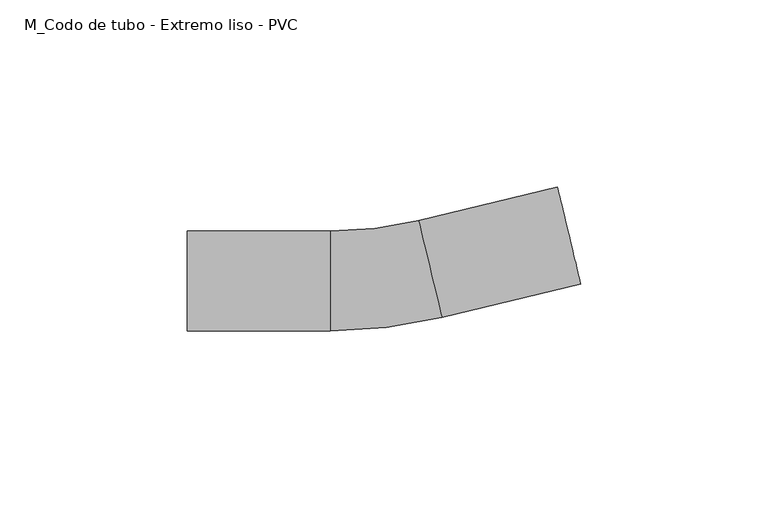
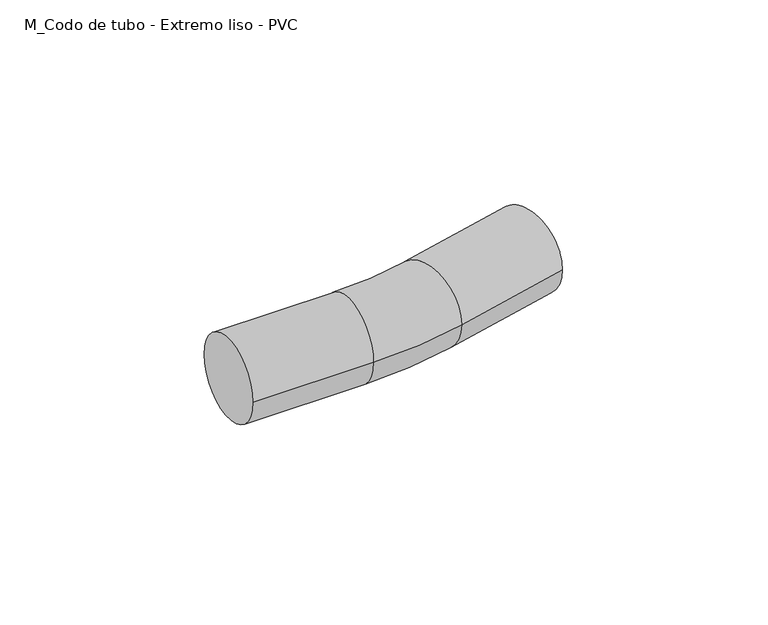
"""IFC4 building model written with IfcOpenShell, lengths in millimetres: cable carrier fitting geometry, M_Codo de tubo - Extremo liso - PVC : CODO ILUMINACION."""

from ifc_helpers import new_model, si_unit, point, frame, origin, place, context, project, spatial, circle_curve, ellipse_curve, trimmed, source, transform, mapped, element, save
from ifc_brep_helpers import plane_surface, cylinder_surface, revolved_surface, advanced_brep


def m_codo_de_tubo_extremo_liso_pvc_7aa797cd(model_context):
    return source(origin(), model_context, "Body", "AdvancedBrep", [
        advanced_brep(
        [(-51.6648743, -13.335, 0.0), (-51.6648743, 13.335, 0.0), (-13.5648743, -13.335, 0.0), (-13.5648743, 13.335, 0.0), (10.0668971, 16.139567, 0.0), (16.3092517, -9.789604, 0.0), (53.3509246, -0.8719544, 0.0), (47.1085699, 25.0572165, 0.0)],
        [
            (0, 1, circle_curve(frame((-51.6648743, 0.0, 0.0), z_axis=(-1.0, 0.0, 0.0), x_axis=(0.0, 1.0, 0.0)), 13.335)),
            (1, 0, circle_curve(frame((-51.6648743, 0.0, 0.0), z_axis=(-1.0, 0.0, 0.0), x_axis=(0.0, 1.0, 0.0)), 13.335)),
            (0, 2),
            (2, 3, circle_curve(frame((-13.5648743, 0.0, 0.0), z_axis=(-1.0, 0.0, 0.0), x_axis=(0.0, 1.0, 0.0)), 13.335)),
            (3, 1),
            (3, 2, circle_curve(frame((-13.5648743, 0.0, 0.0), z_axis=(-1.0, 0.0, 0.0), x_axis=(0.0, 1.0, 0.0)), 13.335)),
            (4, 3, circle_curve(frame((-13.5648743, 114.3, 0.0), z_axis=(0.0, 0.0, -1.0), x_axis=(0.0, -1.0, 0.0)), 100.965)),
            (2, 5, circle_curve(frame((-13.5648743, 114.3, 0.0), z_axis=(0.0, 0.0, 1.0), x_axis=(0.0, -1.0, 0.0)), 127.635)),
            (5, 4, circle_curve(frame((13.1880744, 3.1749815, 0.0), z_axis=(-0.972222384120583, -0.2340590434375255, 0.0), x_axis=(-0.2340590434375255, 0.972222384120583, 0.0)), 13.335)),
            (4, 5, circle_curve(frame((13.1880744, 3.1749815, 0.0), z_axis=(-0.972222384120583, -0.2340590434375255, 0.0), x_axis=(-0.2340590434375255, 0.972222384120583, 0.0)), 13.335)),
            (6, 7, circle_curve(frame((50.2297472, 12.092631, 0.0), z_axis=(0.972222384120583, 0.23405904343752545, 0.0), x_axis=(-0.23405904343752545, 0.972222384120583, 0.0)), 13.335)),
            (7, 6, circle_curve(frame((50.2297472, 12.092631, 0.0), z_axis=(0.972222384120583, 0.23405904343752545, 0.0), x_axis=(-0.23405904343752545, 0.972222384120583, 0.0)), 13.335)),
            (5, 6),
            (7, 4),
        ],
        [
            plane_surface(frame((-51.6648743, 0.0, 0.0), z_axis=(-1.0, 0.0, 0.0), x_axis=(0.0, 0.0, 1.0))),
            cylinder_surface(frame((-51.6648743, 0.0, 0.0), z_axis=(-1.0, 0.0, 0.0), x_axis=(0.0, 1.0, 0.0)), 13.335),
            revolved_surface(trimmed(ellipse_curve(frame((-13.5648743, 0.0, 0.0), z_axis=(-1.0, 0.0, 0.0), x_axis=(0.0, 1.0, 0.0)), 13.335, 13.335), [point((-13.5648743, -13.335, 0.0))], [point((-13.5648743, 13.335, 0.0))], True, "CARTESIAN"), (-13.5648743, 114.3, 0.0), (0.0, 0.0, 1.0)),
            revolved_surface(trimmed(ellipse_curve(frame((-13.5648743, 0.0, 0.0), z_axis=(-1.0, 0.0, 0.0), x_axis=(0.0, 1.0, 0.0)), 13.335, 13.335), [point((-13.5648743, 13.335, 0.0))], [point((-13.5648743, -13.335, 0.0))], True, "CARTESIAN"), (-13.5648743, 114.3, 0.0), (0.0, 0.0, 1.0)),
            plane_surface(frame((50.2297472, 12.092631, 0.0), z_axis=(0.972222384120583, 0.23405904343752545, 0.0), x_axis=(0.0, 0.0, 1.0))),
            cylinder_surface(frame((13.1880744, 3.1749815, 0.0), z_axis=(-0.972222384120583, -0.23405904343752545, 0.0), x_axis=(-0.23405904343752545, 0.972222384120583, 0.0)), 13.335),
        ],
        [
            (0, [[1, 2]]),
            (1, [[-1, 3, 4, 5]]),
            (1, [[-2, -5, 6, -3]]),
            (2, [[7, -4, 8, 9]]),
            (3, [[-8, -6, -7, 10]]),
            (4, [[11, 12]]),
            (5, [[-9, 13, -12, 14]]),
            (5, [[-10, -14, -11, -13]]),
        ],
    ),
    ])


if __name__ == "__main__":
    model = new_model("IFC4")
    model_context = context("Model", 3, world=origin())
    ifc_project = project(units=[si_unit("LENGTHUNIT", "METRE", prefix="MILLI")], contexts=[model_context])
    site = spatial("IfcSite", under=ifc_project)
    building = spatial("IfcBuilding", under=site)
    placement = place(None, origin())
    m_codo_de_tubo_extremo_liso_pvc_shape = m_codo_de_tubo_extremo_liso_pvc_7aa797cd(model_context)
    element("IfcCableCarrierFitting", 1, ObjectType="M_Codo de tubo - Extremo liso - PVC : CODO ILUMINACION", at=placement, inside=building, context=model_context, shape_type="MappedRepresentation", body=[
        mapped(m_codo_de_tubo_extremo_liso_pvc_shape, transform((0.0, 0.0, 0.0), x_axis=(1.0, 0.0, 0.0), y_axis=(0.0, 1.0, 0.0), z_axis=(0.0, 0.0, 1.0))),
    ])
    save(model, "model.ifc")
